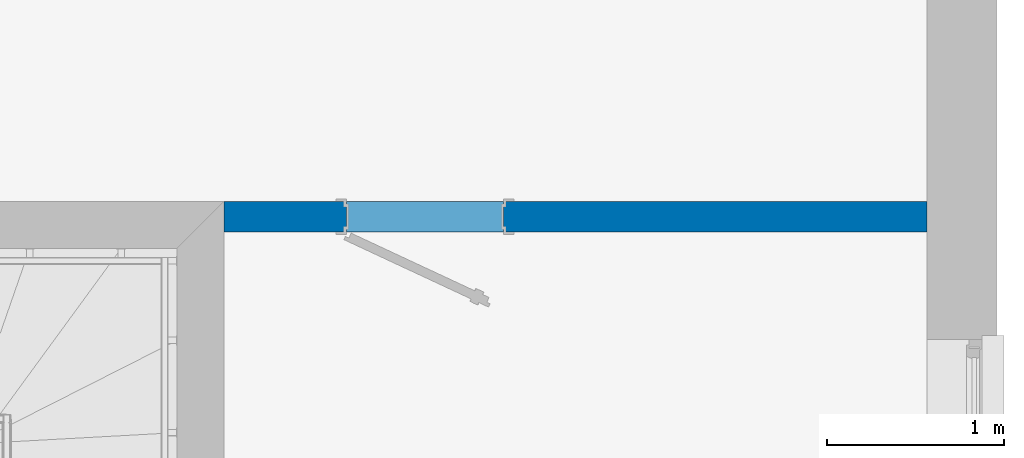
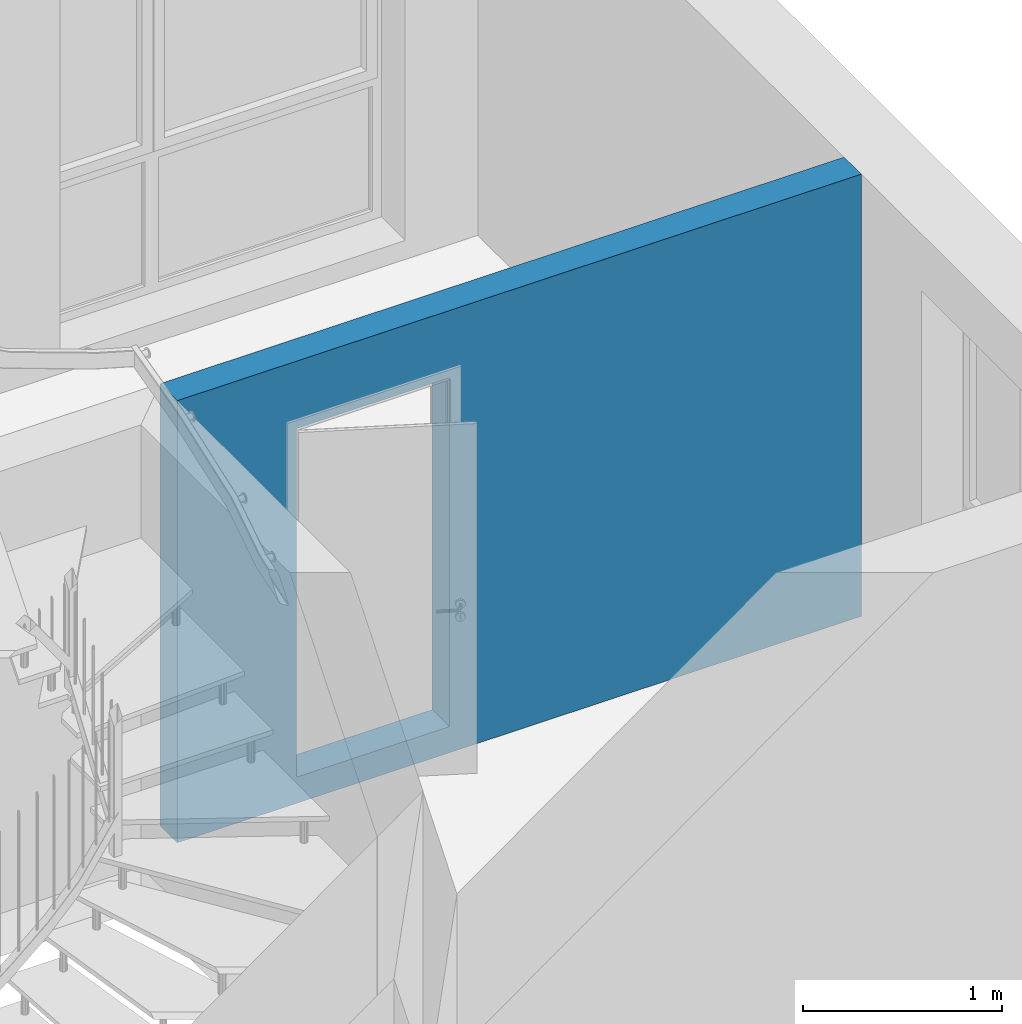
# One storey, part 7 of 16: 1 wall, 1 opening.
"""IFC2X3 building model written with IfcOpenShell, lengths in millimetres."""

from ifc_helpers import new_model, si_unit, frame, origin_with_axes, place, context, project, spatial, faceted_brep, material, layer, layer_set, layer_usage, element, save


model = new_model("IFC2X3")

# Units and contexts
model_context = context("Model", 3, world=origin_with_axes())
ifc_project = project(units=[si_unit("LENGTHUNIT", "METRE", prefix="MILLI")], contexts=[model_context])

# Site, building, storey
site_placement = place(None, origin_with_axes())
site = spatial("IfcSite", under=ifc_project, at=site_placement, Name="Site", CompositionType="ELEMENT")
building_placement = place(site_placement, origin_with_axes())
building = spatial("IfcBuilding", under=site, at=building_placement, Name="?", CompositionType="ELEMENT")
storey_placement = place(building_placement, frame((0.0, 0.0, 2969.0), z_axis=(0.0, 0.0, 1.0), x_axis=(1.0, 0.0, 0.0)))
storey = spatial("IfcBuildingStorey", under=building, at=storey_placement, Name="Obergeschoß 1", CompositionType="ELEMENT", Elevation=2969.0)

# Wall, opening
ifc_material = material(Name="Material_IW")
ifc_layer = layer(ifc_material, 172.0, ventilated=False)
ifc_layer_set = layer_set([ifc_layer], Name="MaterialLayerSet_IW")
ifc_layer_usage = layer_usage(ifc_layer_set, "AXIS2", "NEGATIVE", 86.0)
wall_placement = place(storey_placement, frame((13945.0, -4155.0, 0.0), z_axis=(0.0, 0.0, 1.0), x_axis=(1.0, 0.0, 0.0)))
wall = element("IfcWall", 1, at=wall_placement, inside=storey, material=ifc_layer_usage, Name="IW-26", context=model_context, shape_type="Brep", body=[
    faceted_brep([(3960.0, -86.0, 0.0), (3960.0, -86.0, 2707.0), (0.0, -86.0, 2707.0), (0.0, -86.0, 0.0), (3960.0, 86.0, 0.0), (3960.0, 86.0, 2707.0), (3960.0, -86.0, 2707.0), (3960.0, -86.0, 0.0), (0.0, 86.0, 0.0), (0.0, 86.0, 2707.0), (3960.0, 86.0, 2707.0), (3960.0, 86.0, 0.0), (0.0, -86.0, 0.0), (0.0, -86.0, 2707.0), (0.0, 86.0, 2707.0), (0.0, 86.0, 0.0), (0.0, -86.0, 0.0), (0.0, 86.0, 0.0), (3960.0, 86.0, 0.0), (3960.0, -86.0, 0.0), (0.0, -86.0, 2707.0), (3960.0, -86.0, 2707.0), (3960.0, 86.0, 2707.0), (0.0, 86.0, 2707.0)], [[[0, 1, 2, 3]], [[4, 5, 6, 7]], [[8, 9, 10, 11]], [[12, 13, 14, 15]], [[16, 17, 18, 19]], [[20, 21, 22, 23]]]),
])
opening_placement = place(wall_placement, frame((690.0, 0.0, 160.0), z_axis=(0.0, 0.0, 1.0), x_axis=(1.0, 0.0, 0.0)))
element("IfcOpeningElement", 2, at=opening_placement, cuts=wall, Name="IW-26|IT11", context=model_context, shape_type="Brep", body=[
    faceted_brep([(0.0, 96.0, 0.0), (0.0, 96.0, 2135.0), (885.0, 96.0, 2135.0), (885.0, 96.0, 0.0), (0.0, -96.0, 0.0), (0.0, -96.0, 2135.0), (0.0, 96.0, 2135.0), (0.0, 96.0, 0.0), (885.0, -96.0, 0.0), (0.0, -96.0, 0.0), (0.0, 96.0, 0.0), (885.0, 96.0, 0.0), (885.0, -96.0, 2135.0), (885.0, -96.0, 0.0), (885.0, 96.0, 0.0), (885.0, 96.0, 2135.0), (0.0, -96.0, 2135.0), (885.0, -96.0, 2135.0), (885.0, 96.0, 2135.0), (0.0, 96.0, 2135.0), (0.0, -96.0, 0.0), (885.0, -96.0, 0.0), (885.0, -96.0, 2135.0), (0.0, -96.0, 2135.0)], [[[0, 1, 2, 3]], [[4, 5, 6, 7]], [[8, 9, 10, 11]], [[12, 13, 14, 15]], [[16, 17, 18, 19]], [[20, 21, 22, 23]]]),
])

save(model, "model.ifc")
